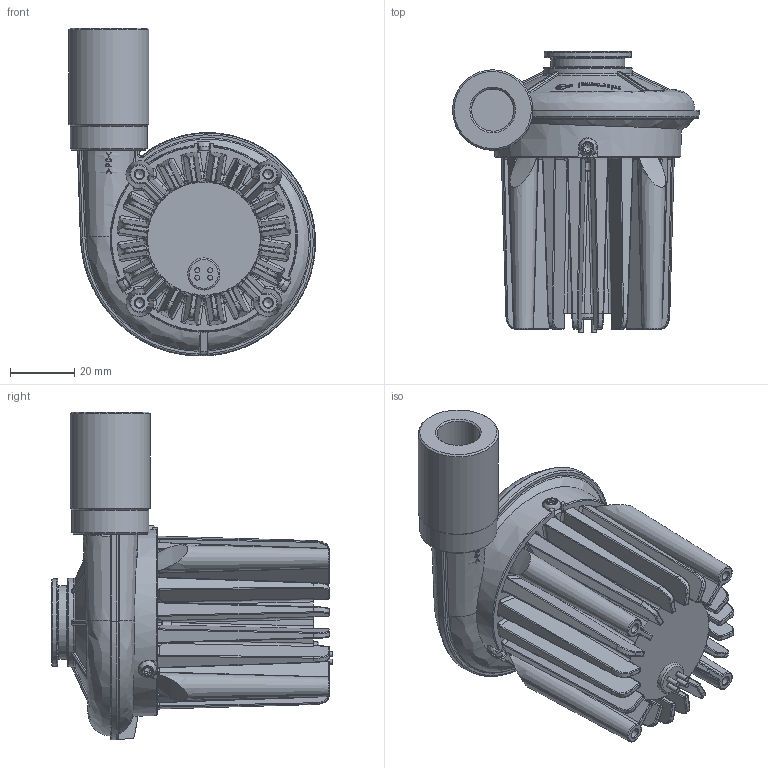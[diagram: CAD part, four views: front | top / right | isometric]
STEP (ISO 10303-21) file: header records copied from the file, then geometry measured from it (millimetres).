
FILE_DESCRIPTION(/* description */ (''),/* implementation_level */ '2;1');
FILE_NAME(/* name */ 'U71HL-024KM-42.stp',/* time_stamp */ '2024-06-24T09:38:24+02:00',/* author */ (''),/* organization */ (''),/* preprocessor_version */ 'ST-DEVELOPER v16.7',/* originating_system */ 'SIEMENS PLM Software NX 1946',/* authorisation */ '');
FILE_SCHEMA (('AUTOMOTIVE_DESIGN { 1 0 10303 214 3 1 1 1 }'));
Length unit declared in the file: millimetre
Products named in the file (1): 021756_1- __
Bounding box: 76.78 x 87.4 x 102.02 mm (x, y, z)
Volume: 174628.1 mm3; surface area: 46343.9 mm2
Topology: 1 solids, 8 shells, 1511 faces, 3824 edges, 2356 vertices
Faces by surface type: plane 504, bspline 367, cylinder 356, cone 124, torus 96, sphere 44, revolution 17, extrusion 3
Full cylindrical faces by diameter (mm): 1.5 x4, 2.75 x4, 3 x3, 10 x1, 13.2 x1, 19.9 x2, 21.6 x1, 22.9 x1, 23.9 x1, 25 x1
Entity records: 58995 total; most frequent: CARTESIAN_POINT 27674, ORIENTED_EDGE 7476, DIRECTION 4869, EDGE_CURVE 3738, VERTEX_POINT 2336, AXIS2_PLACEMENT_3D 1798, B_SPLINE_CURVE_WITH_KNOTS 1755, EDGE_LOOP 1607
